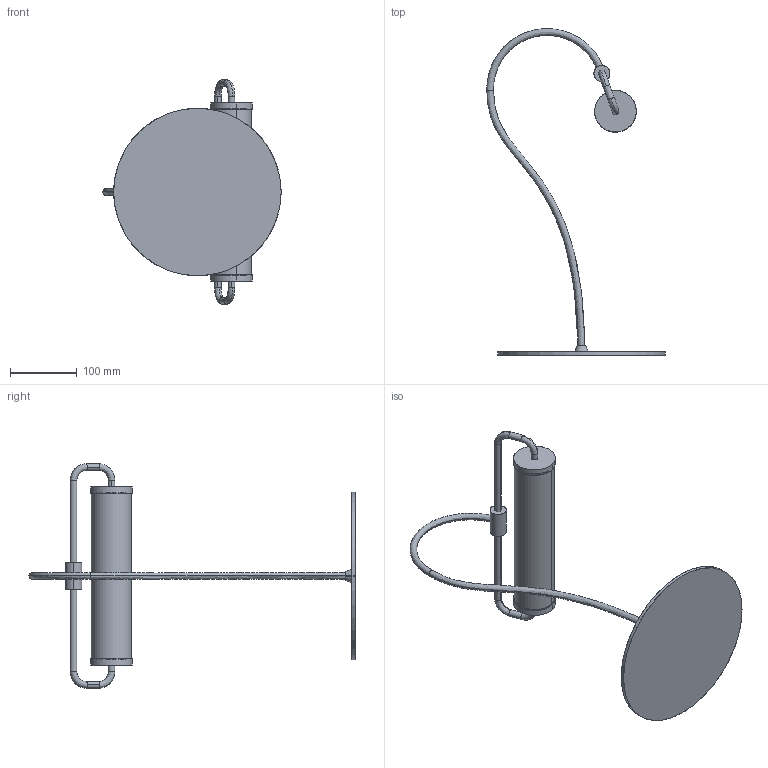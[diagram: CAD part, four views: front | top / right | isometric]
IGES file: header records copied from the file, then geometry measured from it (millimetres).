
Start section: SolidWorks IGES file using analytic representation for surfaces
Global section: file name: C:\Users\Agus\Desktop\Novedades Enero_2022\re_s1298\re_s1298.IGS; native system: SolidWorks 2018; preprocessor: SolidWorks 2018; author: Agus; date: 211214.183042; units: millimetre
Bounding box: 266.19 x 487.47 x 335 mm (x, y, z)
Surface area: 249376.8 mm2 (no closed solid volume)
Topology: 0 solids, 0 shells, 56 faces, 1386 edges, 1386 vertices
Faces by surface type: revolution 28, bspline 28
